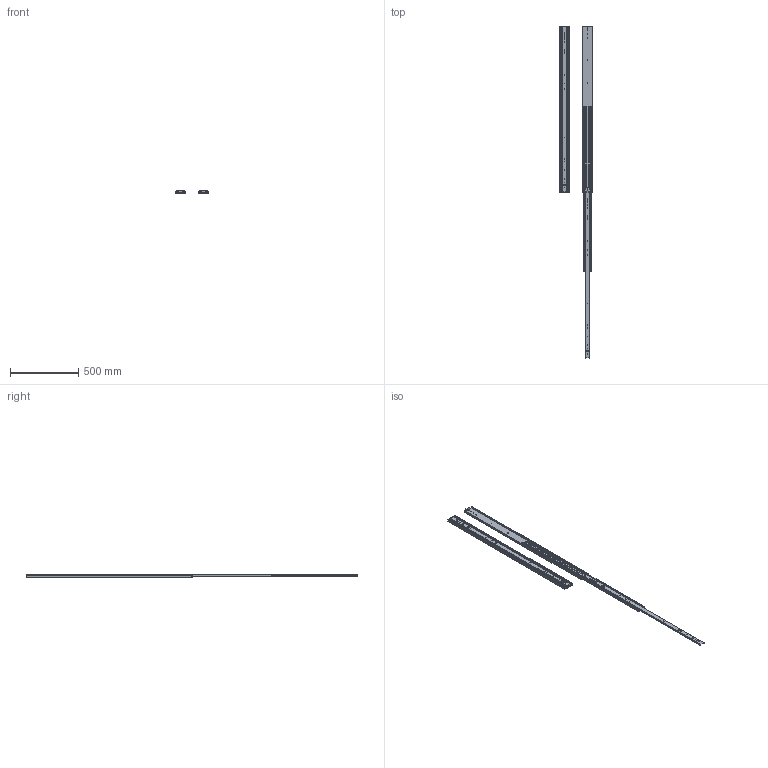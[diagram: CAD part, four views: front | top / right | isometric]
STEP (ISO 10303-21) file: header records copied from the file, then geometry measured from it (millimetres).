
FILE_DESCRIPTION((''),'2;1');
FILE_NAME('ASSEM1_1_2_3_4_5_6_7_8_9_10__20_ASM','2026-04-08T09:03:03',('T260078'),(''),'CREO PARAMETRIC BY PTC INC, 2025123','CREO PARAMETRIC BY PTC INC, 2025123','');
FILE_SCHEMA(('CONFIG_CONTROL_DESIGN','SHAPE_APPEARANCE_LAYERS_GROUPS'));
Length unit declared in the file: millimetre
Products named in the file (6): 76J01-48_X2_540B_X0_-M; 76J01-48_X2_540B_X0_-I; 76J01-48_X2_540B_X0_-O; 76J01-48_X2_540_X0__ASM; 76J01-48_X2_540B_X0_-_X2_5C5595_ASM; ASSEM1_1_2_3_4_5_6_7_8_9_10__20_ASM
Assembly tree (8 placements, depth 3):
  ASSEM1_1_2_3_4_5_6_7_8_9_10__20_ASM
    76J01-48_X2_540_X0__ASM
      76J01-48_X2_540B_X0_-M
      76J01-48_X2_540B_X0_-I
      76J01-48_X2_540B_X0_-O
    76J01-48_X2_540B_X0_-_X2_5C5595_ASM
      76J01-48_X2_540B_X0_-M
      76J01-48_X2_540B_X0_-I
      76J01-48_X2_540B_X0_-O
Bounding box: 245.44 x 2438.4 x 19.3 mm (x, y, z)
Volume: 1508590.8 mm3; surface area: 1344717.8 mm2
Topology: 6 solids, 6 shells, 388 faces, 1258 edges, 870 vertices
Faces by surface type: cylinder 220, plane 168
Entity records: 8597 total; most frequent: CARTESIAN_POINT 1366, DIRECTION 1278, ORIENTED_EDGE 1258, EDGE_CURVE 629, AXIS2_PLACEMENT_3D 459, VERTEX_POINT 435, VECTOR 360, LINE 360
